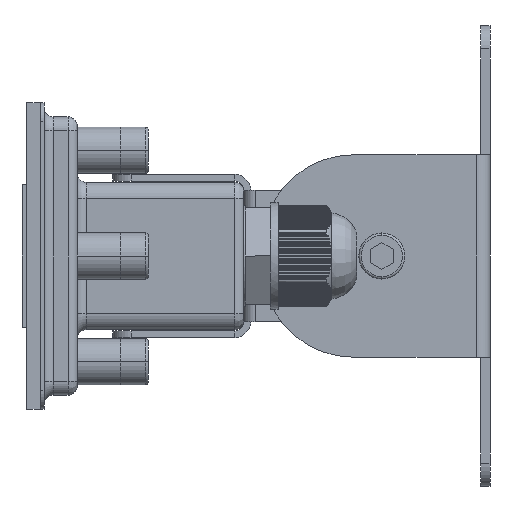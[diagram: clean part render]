
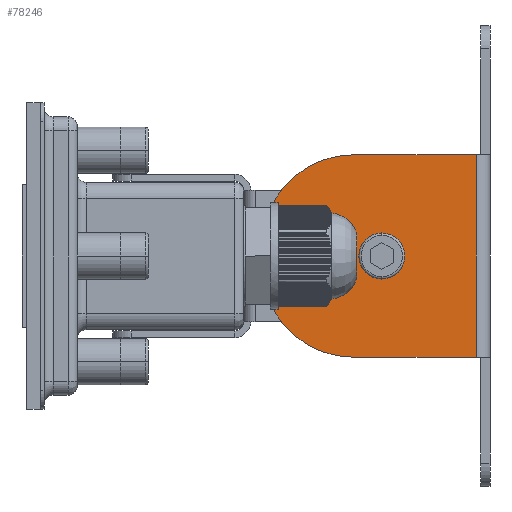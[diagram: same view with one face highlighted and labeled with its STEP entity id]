
A CAD part, left-side view. The second image highlights one B-rep face of the part: STEP entity #78246.
In plain terms, the highlighted planar face has unit normal (-1, 0, 0) as drawn and (0, 1, 0) by its records, which use the part's own axes.
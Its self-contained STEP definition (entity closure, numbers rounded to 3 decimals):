
#77457=DIRECTION('',(1.,0.,0.));
#77458=VECTOR('',#77457,44.);
#77459=CARTESIAN_POINT('',(-22.,24.2,2.5));
#77460=LINE('',#77459,#77458);
#77461=DIRECTION('',(0.,0.,1.));
#77462=VECTOR('',#77461,26.598);
#77463=CARTESIAN_POINT('',(22.,24.2,2.5));
#77464=LINE('',#77463,#77462);
#77465=CARTESIAN_POINT('',(2.,24.2,29.098));
#77466=DIRECTION('',(0.,-1.,0.));
#77467=DIRECTION('',(1.,0.,0.));
#77468=AXIS2_PLACEMENT_3D('',#77465,#77466,#77467);
#77470=CARTESIAN_POINT('',(0.,24.2,19.3));
#77471=DIRECTION('',(0.,-1.,0.));
#77472=DIRECTION('',(0.2,0.,0.98));
#77473=AXIS2_PLACEMENT_3D('',#77470,#77471,#77472);
#77475=CARTESIAN_POINT('',(0.,24.2,19.3));
#77476=DIRECTION('',(0.,-1.,0.));
#77477=DIRECTION('',(0.,0.,1.));
#77478=AXIS2_PLACEMENT_3D('',#77475,#77476,#77477);
#77480=CARTESIAN_POINT('',(-2.,24.2,29.098));
#77481=DIRECTION('',(0.,-1.,0.));
#77482=DIRECTION('',(-0.2,0.,0.98));
#77483=AXIS2_PLACEMENT_3D('',#77480,#77481,#77482);
#77485=DIRECTION('',(0.,0.,-1.));
#77486=VECTOR('',#77485,26.598);
#77487=CARTESIAN_POINT('',(-22.,24.2,29.098));
#77488=LINE('',#77487,#77486);
#77489=CARTESIAN_POINT('',(0.,24.2,23.));
#77490=DIRECTION('',(0.,1.,0.));
#77491=DIRECTION('',(1.,0.,0.));
#77492=AXIS2_PLACEMENT_3D('',#77489,#77490,#77491);
#77494=CARTESIAN_POINT('',(0.,24.2,23.));
#77495=DIRECTION('',(0.,1.,0.));
#77496=DIRECTION('',(-1.,0.,0.));
#77497=AXIS2_PLACEMENT_3D('',#77494,#77495,#77496);
#77929=CARTESIAN_POINT('',(-6.,24.2,48.694));
#77930=CARTESIAN_POINT('',(-22.,24.2,29.098));
#77931=VERTEX_POINT('',#77929);
#77932=VERTEX_POINT('',#77930);
#77933=CARTESIAN_POINT('',(22.,24.2,29.098));
#77934=CARTESIAN_POINT('',(6.,24.2,48.694));
#77935=VERTEX_POINT('',#77933);
#77936=VERTEX_POINT('',#77934);
#77937=CARTESIAN_POINT('',(0.,24.2,49.3));
#77938=VERTEX_POINT('',#77937);
#77939=CARTESIAN_POINT('',(3.25,24.2,23.));
#77940=CARTESIAN_POINT('',(-3.25,24.2,23.));
#77941=VERTEX_POINT('',#77939);
#77942=VERTEX_POINT('',#77940);
#77944=CARTESIAN_POINT('',(22.,24.2,2.5));
#77946=VERTEX_POINT('',#77944);
#77947=CARTESIAN_POINT('',(-22.,24.2,2.5));
#77948=VERTEX_POINT('',#77947);
#78223=CARTESIAN_POINT('',(22.,24.2,2.5));
#78224=DIRECTION('',(0.,-1.,0.));
#78225=DIRECTION('',(0.,0.,1.));
#78226=AXIS2_PLACEMENT_3D('',#78223,#78224,#78225);
#78227=PLANE('',#78226);
#78228=ORIENTED_EDGE('',*,*,#78055,.T.);
#78229=ORIENTED_EDGE('',*,*,#78076,.T.);
#78231=ORIENTED_EDGE('',*,*,#78230,.T.);
#78233=ORIENTED_EDGE('',*,*,#78232,.T.);
#78235=ORIENTED_EDGE('',*,*,#78234,.T.);
#78236=ORIENTED_EDGE('',*,*,#78214,.T.);
#78237=ORIENTED_EDGE('',*,*,#78177,.T.);
#78238=EDGE_LOOP('',(#78228,#78229,#78231,#78233,#78235,#78236,#78237));
#78239=FACE_OUTER_BOUND('',#78238,.F.);
#78241=ORIENTED_EDGE('',*,*,#78240,.T.);
#78243=ORIENTED_EDGE('',*,*,#78242,.T.);
#78244=EDGE_LOOP('',(#78241,#78243));
#78245=FACE_BOUND('',#78244,.F.);
#78246=ADVANCED_FACE('',(#78239,#78245),#78227,.F.);
#77469=CIRCLE('',#77468,20.);
#77474=CIRCLE('',#77473,30.);
#77479=CIRCLE('',#77478,30.);
#77484=CIRCLE('',#77483,20.);
#77493=CIRCLE('',#77492,3.25);
#77498=CIRCLE('',#77497,3.25);
#78055=EDGE_CURVE('',#77948,#77946,#77460,.T.);
#78076=EDGE_CURVE('',#77946,#77935,#77464,.T.);
#78177=EDGE_CURVE('',#77932,#77948,#77488,.T.);
#78214=EDGE_CURVE('',#77931,#77932,#77484,.T.);
#78230=EDGE_CURVE('',#77935,#77936,#77469,.T.);
#78232=EDGE_CURVE('',#77936,#77938,#77474,.T.);
#78234=EDGE_CURVE('',#77938,#77931,#77479,.T.);
#78240=EDGE_CURVE('',#77941,#77942,#77493,.T.);
#78242=EDGE_CURVE('',#77942,#77941,#77498,.T.);
